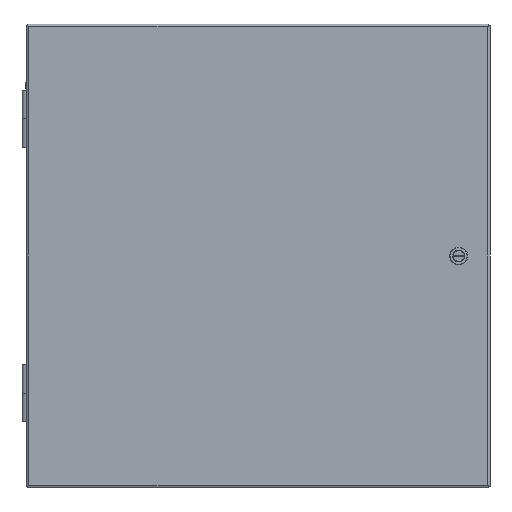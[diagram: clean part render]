
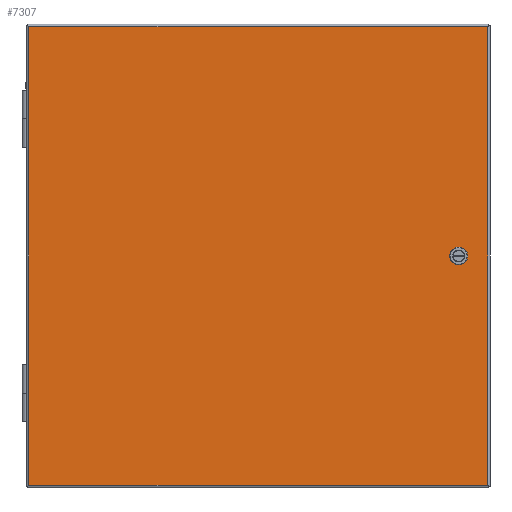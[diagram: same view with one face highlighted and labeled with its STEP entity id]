
A CAD part, front view. The second image highlights one B-rep face of the part: STEP entity #7307.
In plain terms, the highlighted planar face has unit normal (0, -1, 0) as drawn and (0, 0, 1) by its records, which use the part's own axes.
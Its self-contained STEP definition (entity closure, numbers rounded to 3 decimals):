
#840=ORIENTED_EDGE('',*,*,#2864,.T.);
#841=ORIENTED_EDGE('',*,*,#2865,.T.);
#842=ORIENTED_EDGE('',*,*,#2866,.T.);
#843=ORIENTED_EDGE('',*,*,#2867,.T.);
#844=ORIENTED_EDGE('',*,*,#2868,.T.);
#845=ORIENTED_EDGE('',*,*,#2869,.T.);
#846=ORIENTED_EDGE('',*,*,#2870,.T.);
#847=ORIENTED_EDGE('',*,*,#2871,.T.);
#848=ORIENTED_EDGE('',*,*,#2872,.T.);
#849=ORIENTED_EDGE('',*,*,#2873,.T.);
#850=ORIENTED_EDGE('',*,*,#2874,.T.);
#851=ORIENTED_EDGE('',*,*,#2875,.T.);
#2864=EDGE_CURVE('',#3885,#3886,#4566,.T.);
#2865=EDGE_CURVE('',#3886,#3887,#4567,.T.);
#2866=EDGE_CURVE('',#3887,#3888,#4568,.T.);
#2867=EDGE_CURVE('',#3888,#3885,#4569,.T.);
#2868=EDGE_CURVE('',#3889,#3890,#4570,.T.);
#2869=EDGE_CURVE('',#3890,#3891,#4571,.T.);
#2870=EDGE_CURVE('',#3891,#3892,#4572,.T.);
#2871=EDGE_CURVE('',#3892,#3893,#4573,.T.);
#2872=EDGE_CURVE('',#3893,#3894,#4574,.T.);
#2873=EDGE_CURVE('',#3894,#3895,#4575,.T.);
#2874=EDGE_CURVE('',#3895,#3896,#4576,.T.);
#2875=EDGE_CURVE('',#3896,#3889,#4577,.T.);
#3885=VERTEX_POINT('',#10647);
#3886=VERTEX_POINT('',#10648);
#3887=VERTEX_POINT('',#10650);
#3888=VERTEX_POINT('',#10652);
#3889=VERTEX_POINT('',#10655);
#3890=VERTEX_POINT('',#10656);
#3891=VERTEX_POINT('',#10658);
#3892=VERTEX_POINT('',#10660);
#3893=VERTEX_POINT('',#10662);
#3894=VERTEX_POINT('',#10664);
#3895=VERTEX_POINT('',#10666);
#3896=VERTEX_POINT('',#10668);
#4566=LINE('',#10646,#5215);
#4567=LINE('',#10649,#5216);
#4568=LINE('',#10651,#5217);
#4569=LINE('',#10653,#5218);
#4570=LINE('',#10654,#5219);
#4571=LINE('',#10657,#5220);
#4572=LINE('',#10659,#5221);
#4573=LINE('',#10661,#5222);
#4574=LINE('',#10663,#5223);
#4575=LINE('',#10665,#5224);
#4576=LINE('',#10667,#5225);
#4577=LINE('',#10669,#5226);
#5215=VECTOR('',#8613,1000.);
#5216=VECTOR('',#8614,1000.);
#5217=VECTOR('',#8615,1000.);
#5218=VECTOR('',#8616,1000.);
#5219=VECTOR('',#8617,1000.);
#5220=VECTOR('',#8618,1000.);
#5221=VECTOR('',#8619,1000.);
#5222=VECTOR('',#8620,1000.);
#5223=VECTOR('',#8621,1000.);
#5224=VECTOR('',#8622,1000.);
#5225=VECTOR('',#8623,1000.);
#5226=VECTOR('',#8624,1000.);
#5874=EDGE_LOOP('',(#840,#841,#842,#843));
#5875=EDGE_LOOP('',(#844,#845,#846,#847,#848,#849,#850,#851));
#6440=FACE_BOUND('',#5874,.T.);
#6441=FACE_BOUND('',#5875,.T.);
#6990=PLANE('',#7853);
#7307=ADVANCED_FACE('',(#6440,#6441),#6990,.T.);
#7853=AXIS2_PLACEMENT_3D('',#10645,#8611,#8612);
#8611=DIRECTION('',(0.,0.,1.));
#8612=DIRECTION('',(1.,0.,0.));
#8613=DIRECTION('',(0.,-1.,0.));
#8614=DIRECTION('',(1.,0.,0.));
#8615=DIRECTION('',(0.,1.,0.));
#8616=DIRECTION('',(-1.,0.,0.));
#8617=DIRECTION('',(-1.,0.,0.));
#8618=DIRECTION('',(-0.707,0.707,0.));
#8619=DIRECTION('',(0.,1.,0.));
#8620=DIRECTION('',(0.707,0.707,0.));
#8621=DIRECTION('',(1.,0.,0.));
#8622=DIRECTION('',(0.707,-0.707,0.));
#8623=DIRECTION('',(0.,-1.,0.));
#8624=DIRECTION('',(-0.707,-0.707,0.));
#10645=CARTESIAN_POINT('',(-256.134,-256.134,1.829));
#10646=CARTESIAN_POINT('',(-256.134,256.134,1.829));
#10647=CARTESIAN_POINT('',(-256.134,256.134,1.829));
#10648=CARTESIAN_POINT('',(-256.134,-256.134,1.829));
#10649=CARTESIAN_POINT('',(-256.134,-256.134,1.829));
#10650=CARTESIAN_POINT('',(256.134,-256.134,1.829));
#10651=CARTESIAN_POINT('',(256.134,-256.134,1.829));
#10652=CARTESIAN_POINT('',(256.134,256.134,1.829));
#10653=CARTESIAN_POINT('',(256.134,256.134,1.829));
#10654=CARTESIAN_POINT('',(224.043,-8.407,1.829));
#10655=CARTESIAN_POINT('',(224.043,-8.407,1.829));
#10656=CARTESIAN_POINT('',(220.203,-8.407,1.829));
#10657=CARTESIAN_POINT('',(220.203,-8.407,1.829));
#10658=CARTESIAN_POINT('',(213.716,-1.92,1.829));
#10659=CARTESIAN_POINT('',(213.716,-1.92,1.829));
#10660=CARTESIAN_POINT('',(213.716,1.92,1.829));
#10661=CARTESIAN_POINT('',(213.716,1.92,1.829));
#10662=CARTESIAN_POINT('',(220.203,8.407,1.829));
#10663=CARTESIAN_POINT('',(220.203,8.407,1.829));
#10664=CARTESIAN_POINT('',(224.043,8.407,1.829));
#10665=CARTESIAN_POINT('',(224.043,8.407,1.829));
#10666=CARTESIAN_POINT('',(230.53,1.92,1.829));
#10667=CARTESIAN_POINT('',(230.53,1.92,1.829));
#10668=CARTESIAN_POINT('',(230.53,-1.92,1.829));
#10669=CARTESIAN_POINT('',(230.53,-1.92,1.829));
